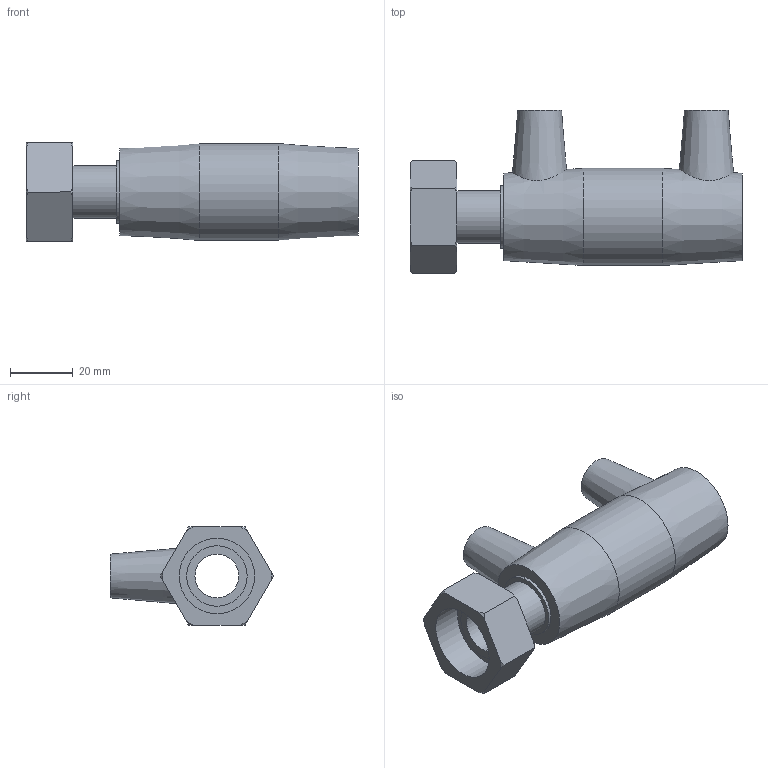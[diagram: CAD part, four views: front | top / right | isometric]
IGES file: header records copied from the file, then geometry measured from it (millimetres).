
Global section: file name: 494104020007.ipt; native system: Autodesk Inventor 2015; preprocessor: unknown; author: KIM; date: 20171106.094124; units: millimetre
Bounding box: 106 x 52.09 x 31.33 mm (x, y, z)
Volume: 50342.1 mm3; surface area: 21349.6 mm2
Topology: 1 solids, 2 shells, 54 faces, 128 edges, 88 vertices
Faces by surface type: plane 22, cone 16, revolution 9, cylinder 7
Full cylindrical faces by diameter (mm): 4 x2, 16.882 x1, 19.294 x1, 20 x2, 31 x1
